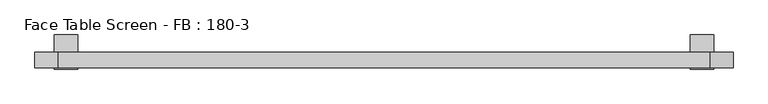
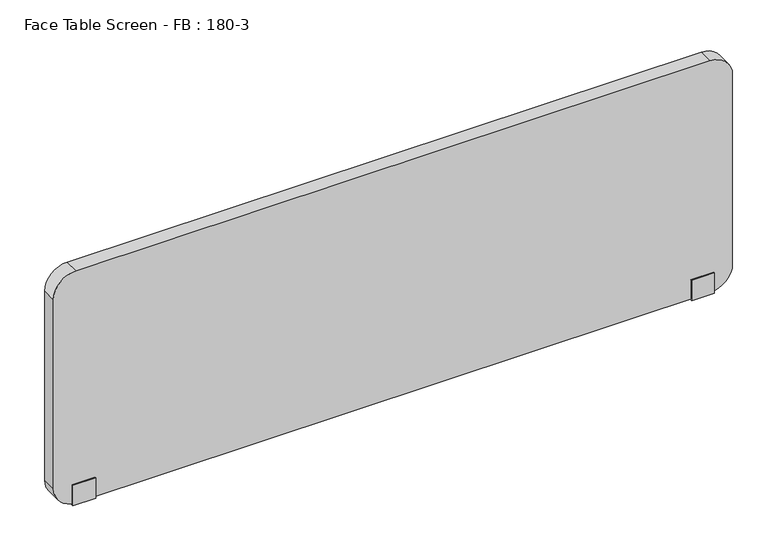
"""IFC4 building model written with IfcOpenShell, lengths in millimetres: furniture geometry, Face Table Screen - FB : 180-3."""

from ifc_helpers import new_model, si_unit, point, frame, frame_2d, origin, place, context, project, spatial, polyline, circle_curve, trimmed, segment, composite_curve, outline, extrude, source, transform, mapped, element, save


def face_table_screen_fb_180_3_36b0c76c(model_context):
    return source(origin(), model_context, "Body", "SweptSolid", [
        extrude(outline(polyline([(-42.9999947, -256.0), (-42.9999997, -199.0433898), (-40.0, -199.0433898), (-40.0, -253.0), (0.0, -253.0), (0.0, -22.0), (45.0, -22.0), (45.0, -25.0433898), (3.0000062, -25.0433898), (2.9999947, -256.0), (-42.9999947, -256.0)])), frame((809.9863751, 0.0, 0.0), z_axis=(1.0, 0.0, 0.0), x_axis=(0.0, 1.0, 0.0)), (0.0, 0.0, 1.0), 60.0),
        extrude(outline(polyline([(-42.9999947, -256.0), (-42.9999997, -199.0433898), (-40.0, -199.0433898), (-40.0, -253.0), (0.0, -253.0), (0.0, -22.0), (45.0, -22.0), (45.0, -25.0433898), (3.0000062, -25.0433898), (2.9999947, -256.0), (-42.9999947, -256.0)])), frame((-830.0136249, 0.0, 0.0), z_axis=(1.0, 0.0, 0.0), x_axis=(0.0, 1.0, 0.0)), (0.0, 0.0, 1.0), 60.0),
        extrude(outline(composite_curve([segment(polyline([(397.0, 859.9863751), (397.0, -820.0136249)]), True, "CONTINUOUS"), segment(trimmed(circle_curve(frame_2d((337.0, -820.0136249)), 60.0), [point((397.0, -820.0136249))], [point((337.0, -880.0136249))], False, "CARTESIAN"), True, "CONTINUOUS"), segment(polyline([(337.0, -880.0136249), (-193.0, -880.0136249)]), True, "CONTINUOUS"), segment(trimmed(circle_curve(frame_2d((-193.0, -820.0136249)), 60.0), [point((-193.0, -880.0136249))], [point((-253.0, -820.0136249))], False, "CARTESIAN"), True, "CONTINUOUS"), segment(polyline([(-253.0, -820.0136249), (-253.0, 859.9863751)]), True, "CONTINUOUS"), segment(trimmed(circle_curve(frame_2d((-193.0, 859.9863751)), 60.0), [point((-253.0, 859.9863751))], [point((-193.0, 919.9863751))], False, "CARTESIAN"), True, "CONTINUOUS"), segment(polyline([(-193.0, 919.9863751), (337.0, 919.9863751)]), True, "CONTINUOUS"), segment(trimmed(circle_curve(frame_2d((337.0, 859.9863751)), 60.0), [point((337.0, 919.9863751))], [point((397.0, 859.9863751))], False, "CARTESIAN"), True, "CONTINUOUS")], self_intersect=False)), frame((0.0, -40.0, 0.0), z_axis=(0.0, 1.0, 0.0), x_axis=(0.0, 0.0, 1.0)), (0.0, 0.0, 1.0), 40.0),
    ])


if __name__ == "__main__":
    model = new_model("IFC4")
    model_context = context("Model", 3, world=origin())
    ifc_project = project(units=[si_unit("LENGTHUNIT", "METRE", prefix="MILLI")], contexts=[model_context])
    site = spatial("IfcSite", under=ifc_project)
    building = spatial("IfcBuilding", under=site)
    placement = place(None, origin())
    face_table_screen_fb_180_3_shape = face_table_screen_fb_180_3_36b0c76c(model_context)
    element("IfcFurniture", 1, ObjectType="Face Table Screen - FB : 180-3", at=placement, inside=building, context=model_context, shape_type="MappedRepresentation", body=[
        mapped(face_table_screen_fb_180_3_shape, transform((0.0, 0.0, 0.0), x_axis=(1.0, 0.0, 0.0), y_axis=(0.0, 1.0, 0.0), z_axis=(0.0, 0.0, 1.0))),
    ])
    save(model, "model.ifc")
